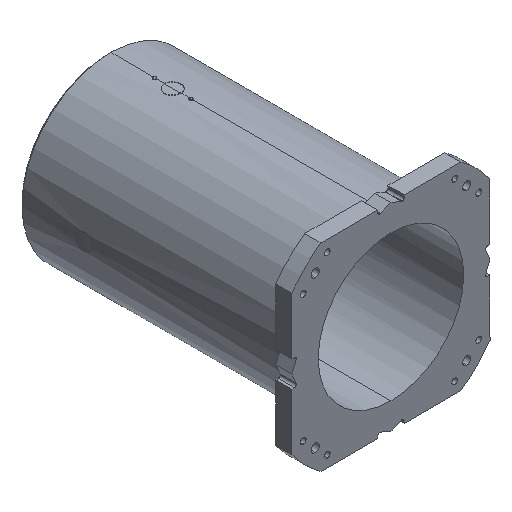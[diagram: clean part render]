
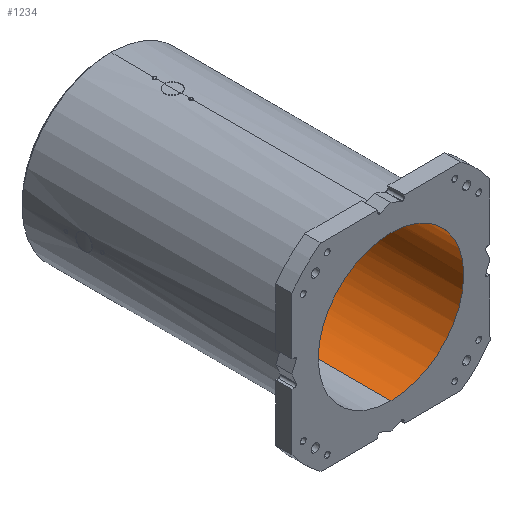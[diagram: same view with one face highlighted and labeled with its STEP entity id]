
A CAD part, isometric view. The second image highlights one B-rep face of the part: STEP entity #1234.
In plain terms, the highlighted cylindrical face has radius 180 mm (diameter 360 mm), a partial arc.
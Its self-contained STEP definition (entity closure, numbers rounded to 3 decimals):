
#221 = CARTESIAN_POINT ( 'NONE',  ( 0., 663., -180. ) ) ;
#322 = ORIENTED_EDGE ( 'NONE', *, *, #2321, .F. ) ;
#588 = VECTOR ( 'NONE', #6242, 1000. ) ;
#661 = LINE ( 'NONE', #10657, #9700 ) ;
#741 = DIRECTION ( 'NONE',  ( 0., 1., 0. ) ) ;
#1234 = ADVANCED_FACE ( 'NONE', ( #5209 ), #9870, .F. ) ;
#1400 = AXIS2_PLACEMENT_3D ( 'NONE', #4590, #6653, #7496 ) ;
#1881 = EDGE_CURVE ( 'NONE', #7064, #7813, #10012, .T. ) ;
#2273 = DIRECTION ( 'NONE',  ( 0., 0., 1. ) ) ;
#2278 = ORIENTED_EDGE ( 'NONE', *, *, #2472, .T. ) ;
#2321 = EDGE_CURVE ( 'NONE', #7254, #9766, #10970, .T. ) ;
#2472 = EDGE_CURVE ( 'NONE', #7813, #7093, #9839, .T. ) ;
#2602 = DIRECTION ( 'NONE',  ( 0., 1., 0. ) ) ;
#2949 = VERTEX_POINT ( 'NONE', #10047 ) ;
#3230 = DIRECTION ( 'NONE',  ( 0., 0., 1. ) ) ;
#3412 = DIRECTION ( 'NONE',  ( 0., 1., 0. ) ) ;
#3462 = ORIENTED_EDGE ( 'NONE', *, *, #7776, .T. ) ;
#3521 = EDGE_CURVE ( 'NONE', #2949, #6475, #4232, .T. ) ;
#4102 = DIRECTION ( 'NONE',  ( 0., 1., 0. ) ) ;
#4223 = DIRECTION ( 'NONE',  ( 0., 1., 0. ) ) ;
#4232 = CIRCLE ( 'NONE', #10644, 180. ) ;
#4251 = ORIENTED_EDGE ( 'NONE', *, *, #4800, .T. ) ;
#4387 = CARTESIAN_POINT ( 'NONE',  ( 0., 0., 0. ) ) ;
#4420 = ORIENTED_EDGE ( 'NONE', *, *, #3521, .T. ) ;
#4528 = EDGE_LOOP ( 'NONE', ( #8742, #322, #4251, #4420, #6610, #10014, #2278, #3462 ) ) ;
#4590 = CARTESIAN_POINT ( 'NONE',  ( 0., 0., 0. ) ) ;
#4800 = EDGE_CURVE ( 'NONE', #7254, #2949, #661, .T. ) ;
#5049 = CIRCLE ( 'NONE', #5252, 180. ) ;
#5101 = VERTEX_POINT ( 'NONE', #221 ) ;
#5174 = CARTESIAN_POINT ( 'NONE',  ( 0., 663., 0. ) ) ;
#5209 = FACE_OUTER_BOUND ( 'NONE', #4528, .T. ) ;
#5252 = AXIS2_PLACEMENT_3D ( 'NONE', #11192, #4102, #3230 ) ;
#5354 = CARTESIAN_POINT ( 'NONE',  ( 0., 0., -180. ) ) ;
#5476 = CARTESIAN_POINT ( 'NONE',  ( 123.123, 663., 131.304 ) ) ;
#5882 = AXIS2_PLACEMENT_3D ( 'NONE', #5174, #741, #8785 ) ;
#5940 = DIRECTION ( 'NONE',  ( 0., 0., 1. ) ) ;
#6169 = DIRECTION ( 'NONE',  ( 0., 0., 1. ) ) ;
#6242 = DIRECTION ( 'NONE',  ( 0., 1., 0. ) ) ;
#6336 = AXIS2_PLACEMENT_3D ( 'NONE', #10667, #2602, #6169 ) ;
#6425 = AXIS2_PLACEMENT_3D ( 'NONE', #7843, #3412, #5940 ) ;
#6475 = VERTEX_POINT ( 'NONE', #5476 ) ;
#6610 = ORIENTED_EDGE ( 'NONE', *, *, #10426, .T. ) ;
#6653 = DIRECTION ( 'NONE',  ( 0., 1., 0. ) ) ;
#6717 = CARTESIAN_POINT ( 'NONE',  ( 0., 663., 0. ) ) ;
#7064 = VERTEX_POINT ( 'NONE', #7390 ) ;
#7093 = VERTEX_POINT ( 'NONE', #9225 ) ;
#7230 = CARTESIAN_POINT ( 'NONE',  ( 131.304, 663., -123.123 ) ) ;
#7254 = VERTEX_POINT ( 'NONE', #8862 ) ;
#7390 = CARTESIAN_POINT ( 'NONE',  ( 131.304, 663., 123.123 ) ) ;
#7496 = DIRECTION ( 'NONE',  ( 0., 0., 1. ) ) ;
#7776 = EDGE_CURVE ( 'NONE', #7093, #5101, #7859, .T. ) ;
#7813 = VERTEX_POINT ( 'NONE', #7230 ) ;
#7843 = CARTESIAN_POINT ( 'NONE',  ( 0., 663., 0. ) ) ;
#7859 = CIRCLE ( 'NONE', #6336, 180. ) ;
#8612 = DIRECTION ( 'NONE',  ( 0., 1., 0. ) ) ;
#8742 = ORIENTED_EDGE ( 'NONE', *, *, #9406, .F. ) ;
#8785 = DIRECTION ( 'NONE',  ( 0., 0., 1. ) ) ;
#8862 = CARTESIAN_POINT ( 'NONE',  ( 0., 0., 180. ) ) ;
#9225 = CARTESIAN_POINT ( 'NONE',  ( 123.123, 663., -131.304 ) ) ;
#9406 = EDGE_CURVE ( 'NONE', #9766, #5101, #9902, .T. ) ;
#9700 = VECTOR ( 'NONE', #4223, 1000. ) ;
#9766 = VERTEX_POINT ( 'NONE', #11503 ) ;
#9839 = CIRCLE ( 'NONE', #5882, 180. ) ;
#9870 = CYLINDRICAL_SURFACE ( 'NONE', #10207, 180. ) ;
#9902 = LINE ( 'NONE', #5354, #588 ) ;
#10012 = CIRCLE ( 'NONE', #6425, 180. ) ;
#10014 = ORIENTED_EDGE ( 'NONE', *, *, #1881, .T. ) ;
#10047 = CARTESIAN_POINT ( 'NONE',  ( 0., 663., 180. ) ) ;
#10207 = AXIS2_PLACEMENT_3D ( 'NONE', #4387, #11595, #10708 ) ;
#10426 = EDGE_CURVE ( 'NONE', #6475, #7064, #5049, .T. ) ;
#10644 = AXIS2_PLACEMENT_3D ( 'NONE', #6717, #8612, #2273 ) ;
#10657 = CARTESIAN_POINT ( 'NONE',  ( 0., 0., 180. ) ) ;
#10667 = CARTESIAN_POINT ( 'NONE',  ( 0., 663., 0. ) ) ;
#10708 = DIRECTION ( 'NONE',  ( 0., 0., 1. ) ) ;
#10970 = CIRCLE ( 'NONE', #1400, 180. ) ;
#11192 = CARTESIAN_POINT ( 'NONE',  ( 0., 663., 0. ) ) ;
#11503 = CARTESIAN_POINT ( 'NONE',  ( 0., 0., -180. ) ) ;
#11595 = DIRECTION ( 'NONE',  ( 0., 1., 0. ) ) ;
